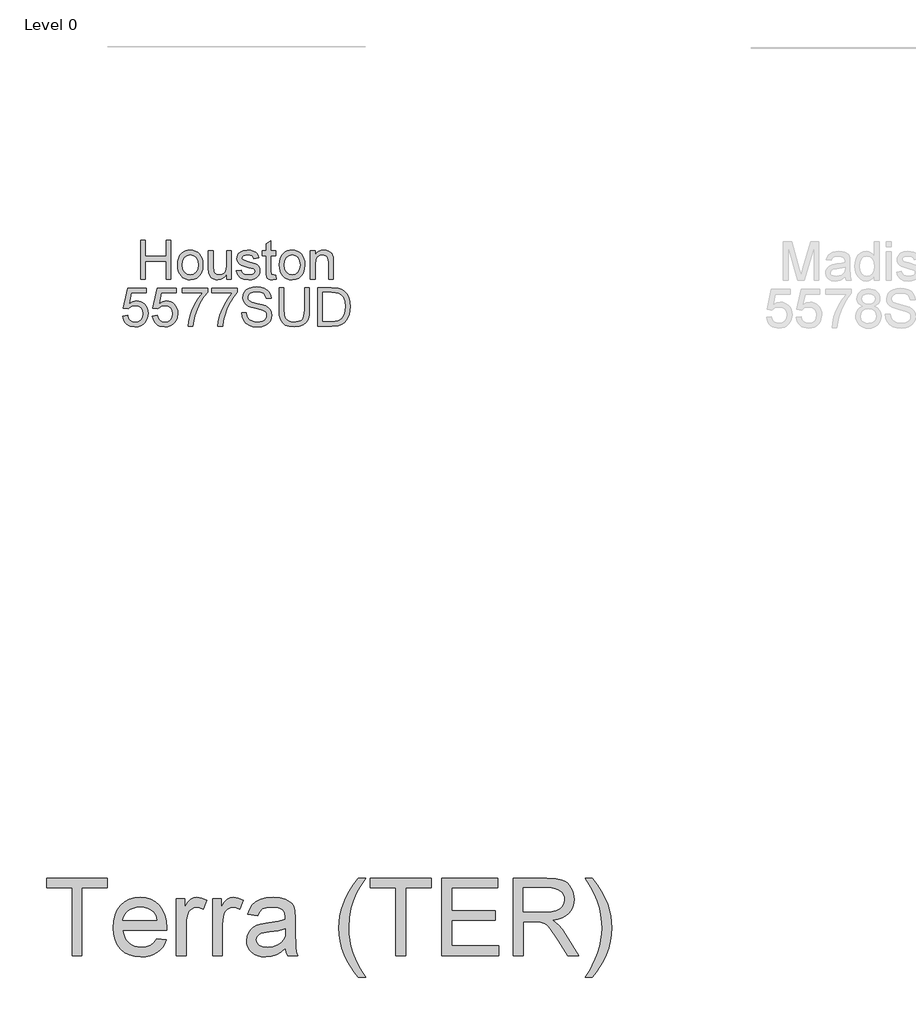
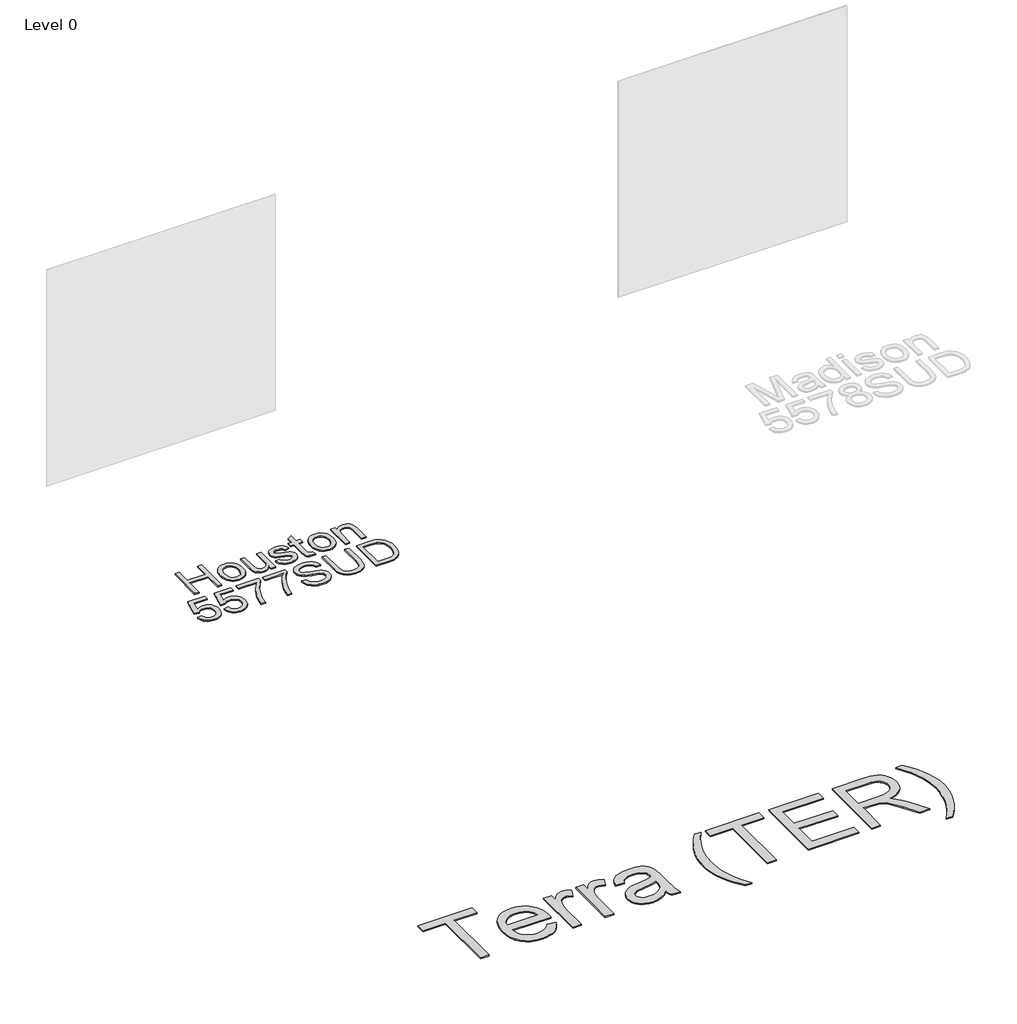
# One storey, part 2 of 9: 2 proxies.
"""IFC4 building model written with IfcOpenShell, lengths in millimetres."""

from ifc_helpers import new_model, si_unit, origin, origin_with_axes, place, context, project, spatial, polyline, outline, extrude, element, save

model = new_model("IFC4")

# Units and contexts
model_context = context("Model", 3, world=origin())
ifc_project = project(units=[si_unit("LENGTHUNIT", "METRE", prefix="MILLI")], contexts=[model_context])

# Site, building, storey
site = spatial("IfcSite", under=ifc_project)
building = spatial("IfcBuilding", under=site)
storey = spatial("IfcBuildingStorey", under=building, Name="Level 0", Elevation=0.0)

# Proxies
placement = place(None, origin())
element("IfcBuildingElementProxy", 1, Name="300mm Arial", ObjectType="300mm Arial", at=placement, inside=storey, context=model_context, shape_type="SweptSolid", body=[
    extrude(outline(polyline([(-10194.6626034, -16998.4454346), (-10194.6626034, -16697.0765041), (-10156.991487, -16697.0765041), (-10156.991487, -16819.5076321), (-9996.8892427, -16819.5076321), (-9996.8892427, -16697.0765041), (-9959.2181264, -16697.0765041), (-9959.2181264, -16998.4454346), (-9996.8892427, -16998.4454346), (-9996.8892427, -16857.1787484), (-10156.991487, -16857.1787484), (-10156.991487, -16998.4454346), (-10194.6626034, -16998.4454346)])), origin_with_axes(), (0.0, 0.0, 1.0), 10.0),
    extrude(outline(polyline([(-9907.4203415, -16887.7865304), (-9905.383195, -16859.1239245), (-9899.2717553, -16834.425247), (-9889.0860226, -16813.690498), (-9874.8259967, -16796.9196776), (-9860.4694019, -16786.200516), (-9844.6228849, -16778.5439719), (-9827.2864459, -16773.9500455), (-9808.4600848, -16772.4187367), (-9787.6770514, -16774.2834386), (-9768.8851792, -16779.8775442), (-9752.0844683, -16789.2010535), (-9737.2749187, -16802.2539665), (-9725.1876959, -16818.5948249), (-9716.5539654, -16837.7821702), (-9711.373727, -16859.8160025), (-9709.6469809, -16884.6963216), (-9712.7004015, -16922.753714), (-9721.8606632, -16951.7244212), (-9736.8610515, -16973.4202618), (-9757.4348521, -16989.6530549), (-9781.8714136, -16999.7790068), (-9808.4600848, -17003.1543241), (-9829.5466209, -17001.29652), (-9848.513237, -16995.7231078), (-9865.3599332, -16986.4340874), (-9880.0867093, -16973.4294589), (-9892.0451734, -16956.9299514), (-9900.5869335, -16937.1562942), (-9905.7119895, -16914.1084872), (-9907.4203415, -16887.7865304)]), holes=[polyline([(-9869.7492252, -16887.712954), (-9865.3898236, -16921.8064179), (-9852.3116186, -16946.0958266), (-9832.6299319, -16960.6363625), (-9808.4600848, -16965.4832078), (-9784.4006023, -16960.6087713), (-9764.7557038, -16945.985462), (-9751.6774989, -16921.3741566), (-9747.3180972, -16886.5357316), (-9751.70509, -16853.4355491), (-9764.8660684, -16829.4772342), (-9784.5385581, -16814.9366983), (-9808.4600848, -16810.089853), (-9832.6299319, -16814.9183042), (-9852.3116186, -16829.4036578), (-9865.3898236, -16853.6378842), (-9869.7492252, -16887.712954)])]), origin_with_axes(), (0.0, 0.0, 1.0), 10.0),
    extrude(outline(polyline([(-9526.0002889, -16998.4454346), (-9526.0002889, -16960.4064362), (-9539.6303168, -16979.1086372), (-9555.5044249, -16992.4673521), (-9573.6226132, -17000.4825811), (-9593.9848816, -17003.1543241), (-9612.3329961, -17001.2781259), (-9629.4119178, -16995.6495314), (-9643.7409215, -16987.1882455), (-9653.8392822, -16976.8139732), (-9665.0596831, -16949.0756708), (-9667.2669751, -16914.0533049), (-9667.2669751, -16777.1276263), (-9629.5958588, -16777.1276263), (-9629.5958588, -16896.3213927), (-9627.3149904, -16934.728273), (-9621.8243516, -16947.5397635), (-9612.4157696, -16957.2794393), (-9599.7146437, -16963.4322657), (-9584.3463734, -16965.4832078), (-9568.0951862, -16963.3862804), (-9552.8924628, -16957.0954983), (-9540.3568838, -16947.1902756), (-9532.10713, -16934.2500264), (-9527.5269992, -16916.5273113), (-9526.0002889, -16892.2746907), (-9526.0002889, -16777.1276263), (-9488.3291726, -16777.1276263), (-9488.3291726, -16998.4454346), (-9526.0002889, -16998.4454346)])), origin_with_axes(), (0.0, 0.0, 1.0), 10.0),
    extrude(outline(polyline([(-9450.6580563, -16932.520981), (-9412.98694, -16927.8120915), (-9407.0456458, -16943.9253229), (-9395.5493334, -16955.7711231), (-9378.4244266, -16963.0551866), (-9355.5973488, -16965.4832078), (-9333.0461824, -16963.2575217), (-9317.1904685, -16956.5804635), (-9307.8094776, -16946.905167), (-9304.6824806, -16935.6847662), (-9307.8278717, -16926.0830461), (-9317.2640449, -16918.7621944), (-9356.0388071, -16908.0200401), (-9412.7662108, -16889.5891522), (-9427.1228057, -16880.3277229), (-9437.5246691, -16868.0680555), (-9443.8430423, -16853.591899), (-9445.9491668, -16837.6810027), (-9444.2569096, -16823.0852845), (-9439.1801381, -16809.6116064), (-9431.1787047, -16797.7933973), (-9420.7124619, -16788.1640861), (-9396.763344, -16777.0172617), (-9364.3529402, -16772.4187367), (-9339.8336053, -16774.2673437), (-9318.5148436, -16779.8131648), (-9301.3715427, -16788.513574), (-9289.3785896, -16799.8259454), (-9281.4323385, -16814.5872104), (-9276.4291434, -16833.6343007), (-9314.1002597, -16838.3431903), (-9318.8551345, -16826.488193), (-9328.2637165, -16817.5578575), (-9342.4179763, -16811.9568541), (-9361.4098843, -16810.089853), (-9383.0413456, -16811.8740807), (-9397.4623198, -16817.2267637), (-9405.5741178, -16824.9522856), (-9408.2780505, -16833.8550299), (-9403.7898901, -16844.8179134), (-9389.7367979, -16853.1320465), (-9357.2896059, -16861.151874), (-9301.9969421, -16878.8837861), (-9287.3920268, -16887.3634661), (-9276.3187788, -16898.9701431), (-9269.3382179, -16913.7406052), (-9267.0113643, -16931.7116406), (-9269.7428881, -16950.2896814), (-9277.9374596, -16967.7640762), (-9291.2823789, -16982.7644645), (-9309.4649466, -16993.920486), (-9331.4275017, -17000.8458646), (-9356.1123835, -17003.1543241), (-9394.0961995, -16998.7029519), (-9421.8161079, -16985.3488355), (-9440.3205722, -16963.2391276), (-9450.6580563, -16932.520981)])), origin_with_axes(), (0.0, 0.0, 1.0), 10.0),
    extrude(outline(polyline([(-9144.5802363, -16967.0283122), (-9139.8713468, -16999.5490805), (-9168.0511076, -17003.1543241), (-9186.1325077, -17001.5908256), (-9199.6153828, -16996.9003302), (-9209.1435265, -16989.671449), (-9215.3607322, -16980.4927932), (-9218.7820347, -16964.7290497), (-9219.9224689, -16937.7449053), (-9219.9224689, -16814.7987426), (-9248.1758062, -16814.7987426), (-9248.1758062, -16777.1276263), (-9219.9224689, -16777.1276263), (-9219.9224689, -16723.3432786), (-9182.2513526, -16701.1967824), (-9182.2513526, -16777.1276263), (-9144.5802363, -16777.1276263), (-9144.5802363, -16814.7987426), (-9182.2513526, -16814.7987426), (-9182.2513526, -16936.6412594), (-9180.2647899, -16956.0654287), (-9173.8268549, -16962.944822), (-9160.9877733, -16965.4832078), (-9144.5802363, -16967.0283122)])), origin_with_axes(), (0.0, 0.0, 1.0), 10.0),
    extrude(outline(polyline([(-9116.3268991, -16887.7865304), (-9114.2897525, -16859.1239245), (-9108.1783129, -16834.425247), (-9097.9925802, -16813.690498), (-9083.7325543, -16796.9196776), (-9069.3759595, -16786.200516), (-9053.5294425, -16778.5439719), (-9036.1930035, -16773.9500455), (-9017.3666424, -16772.4187367), (-8996.5836089, -16774.2834386), (-8977.7917368, -16779.8775442), (-8960.9910259, -16789.2010535), (-8946.1814763, -16802.2539665), (-8934.0942535, -16818.5948249), (-8925.4605229, -16837.7821702), (-8920.2802846, -16859.8160025), (-8918.5535385, -16884.6963216), (-8921.606959, -16922.753714), (-8930.7672207, -16951.7244212), (-8945.7676091, -16973.4202618), (-8966.3414097, -16989.6530549), (-8990.7779712, -16999.7790068), (-9017.3666424, -17003.1543241), (-9038.4531785, -17001.29652), (-9057.4197946, -16995.7231078), (-9074.2664907, -16986.4340874), (-9088.9932668, -16973.4294589), (-9100.951731, -16956.9299514), (-9109.493491, -16937.1562942), (-9114.6185471, -16914.1084872), (-9116.3268991, -16887.7865304)]), holes=[polyline([(-9078.6557828, -16887.712954), (-9074.2963811, -16921.8064179), (-9061.2181762, -16946.0958266), (-9041.5364895, -16960.6363625), (-9017.3666424, -16965.4832078), (-8993.3071599, -16960.6087713), (-8973.6622614, -16945.985462), (-8960.5840564, -16921.3741566), (-8956.2246548, -16886.5357316), (-8960.6116476, -16853.4355491), (-8973.772626, -16829.4772342), (-8993.4451157, -16814.9366983), (-9017.3666424, -16810.089853), (-9041.5364895, -16814.9183042), (-9061.2181762, -16829.4036578), (-9074.2963811, -16853.6378842), (-9078.6557828, -16887.712954)])]), origin_with_axes(), (0.0, 0.0, 1.0), 10.0),
    extrude(outline(polyline([(-8876.1735326, -16998.4454346), (-8876.1735326, -16777.1276263), (-8838.5024163, -16777.1276263), (-8838.5024163, -16808.0297138), (-8825.4150144, -16792.4499114), (-8809.6972561, -16781.321481), (-8791.3491416, -16774.6444228), (-8770.3706708, -16772.4187367), (-8751.8018271, -16774.2121614), (-8734.7964819, -16779.5924356), (-8720.614631, -16787.8881746), (-8710.5162702, -16798.4279938), (-8699.222293, -16826.129508), (-8697.2357302, -16862.5498255), (-8697.2357302, -16998.4454346), (-8734.9068465, -16998.4454346), (-8734.9068465, -16867.6265971), (-8739.247854, -16834.2964883), (-8745.2535276, -16824.3728715), (-8754.5885332, -16816.6749407), (-8766.5538951, -16811.7361249), (-8780.4506375, -16810.089853), (-8802.5143602, -16813.7870671), (-8821.3223272, -16824.8787092), (-8828.8386162, -16833.9332048), (-8834.207394, -16846.3078354), (-8838.5024163, -16881.0175017), (-8838.5024163, -16998.4454346), (-8876.1735326, -16998.4454346)])), origin_with_axes(), (0.0, 0.0, 1.0), 10.0),
    extrude(outline(polyline([(-10333.5748447, -17284.3187659), (-10295.9037284, -17279.6098764), (-10288.9875469, -17302.2254221), (-10276.9210175, -17318.4214269), (-10259.7593224, -17328.1611027), (-10237.557644, -17331.4076613), (-10210.5551055, -17326.8919098), (-10190.3215958, -17313.3446554), (-10177.6848493, -17292.3293964), (-10173.4726004, -17265.4096314), (-10177.4181348, -17240.0625619), (-10189.254738, -17220.6751808), (-10209.0743805, -17208.369528), (-10236.9690328, -17204.2676438), (-10255.2435709, -17205.9047187), (-10270.0416242, -17210.8159433), (-10291.1948389, -17227.8120915), (-10328.8659552, -17223.1032019), (-10295.9037284, -17067.7098472), (-10149.9281527, -17067.7098472), (-10149.9281527, -17105.3809635), (-10265.4430992, -17105.3809635), (-10281.629907, -17188.3751416), (-10254.7193391, -17172.041181), (-10226.5211841, -17166.5965275), (-10208.1730696, -17168.2841861), (-10191.3148772, -17173.3471621), (-10175.9466068, -17181.7854554), (-10162.0682586, -17193.5990659), (-10150.5765448, -17208.0660254), (-10142.3681777, -17224.4643653), (-10137.4431575, -17242.7940857), (-10135.8014841, -17263.0551866), (-10141.7059901, -17300.7263029), (-10149.0866227, -17317.520116), (-10159.4195082, -17332.9527657), (-10175.0728871, -17348.7578959), (-10193.3382282, -17360.0472746), (-10214.2155314, -17366.8209019), (-10237.7047968, -17369.0787776), (-10274.7045285, -17363.2754392), (-10290.3831992, -17356.0212661), (-10304.1810733, -17345.8654237), (-10315.6612908, -17333.3137499), (-10324.3869919, -17318.8720823), (-10333.5748447, -17284.3187659)])), origin_with_axes(), (0.0, 0.0, 1.0), 10.0),
    extrude(outline(polyline([(-10102.8392574, -17284.3187659), (-10065.1681411, -17279.6098764), (-10058.2519595, -17302.2254221), (-10046.1854301, -17318.4214269), (-10029.023735, -17328.1611027), (-10006.8220566, -17331.4076613), (-9979.8195182, -17326.8919098), (-9959.5860084, -17313.3446554), (-9946.9492619, -17292.3293964), (-9942.7370131, -17265.4096314), (-9946.6825475, -17240.0625619), (-9958.5191506, -17220.6751808), (-9978.3387931, -17208.369528), (-10006.2334454, -17204.2676438), (-10024.5079835, -17205.9047187), (-10039.3060368, -17210.8159433), (-10060.4592515, -17227.8120915), (-10098.1303678, -17223.1032019), (-10065.1681411, -17067.7098472), (-9919.1925654, -17067.7098472), (-9919.1925654, -17105.3809635), (-10034.7075119, -17105.3809635), (-10050.8943196, -17188.3751416), (-10023.9837517, -17172.041181), (-9995.7855968, -17166.5965275), (-9977.4374823, -17168.2841861), (-9960.5792898, -17173.3471621), (-9945.2110195, -17181.7854554), (-9931.3326712, -17193.5990659), (-9919.8409574, -17208.0660254), (-9911.6325904, -17224.4643653), (-9906.7075702, -17242.7940857), (-9905.0658967, -17263.0551866), (-9910.9704028, -17300.7263029), (-9918.3510353, -17317.520116), (-9928.6839208, -17332.9527657), (-9944.3372997, -17348.7578959), (-9962.6026408, -17360.0472746), (-9983.479944, -17366.8209019), (-10006.9692094, -17369.0787776), (-10043.9689411, -17363.2754392), (-10059.6476119, -17356.0212661), (-10073.4454859, -17345.8654237), (-10084.9257035, -17333.3137499), (-10093.6514045, -17318.8720823), (-10102.8392574, -17284.3187659)])), origin_with_axes(), (0.0, 0.0, 1.0), 10.0),
    extrude(outline(polyline([(-9872.10367, -17105.3809635), (-9872.10367, -17067.7098472), (-9674.3303094, -17067.7098472), (-9674.3303094, -17098.1704764), (-9702.5192673, -17133.8458329), (-9730.4323136, -17179.2148799), (-9755.0528162, -17230.1389451), (-9773.3641425, -17282.479356), (-9782.3404632, -17321.6403943), (-9787.3436583, -17364.3698881), (-9825.0147746, -17364.3698881), (-9820.9404815, -17325.5399435), (-9810.0419774, -17279.3891472), (-9792.6135679, -17230.4700389), (-9768.9495585, -17183.3351583), (-9741.3216207, -17140.7252262), (-9712.0014257, -17105.3809635), (-9872.10367, -17105.3809635)])), origin_with_axes(), (0.0, 0.0, 1.0), 10.0),
    extrude(outline(polyline([(-9641.3680826, -17105.3809635), (-9641.3680826, -17067.7098472), (-9443.594722, -17067.7098472), (-9443.594722, -17098.1704764), (-9471.7836799, -17133.8458329), (-9499.6967263, -17179.2148799), (-9524.3172288, -17230.1389451), (-9542.6285551, -17282.479356), (-9551.6048758, -17321.6403943), (-9556.6080709, -17364.3698881), (-9594.2791872, -17364.3698881), (-9590.2048941, -17325.5399435), (-9579.30639, -17279.3891472), (-9561.8779805, -17230.4700389), (-9538.2139712, -17183.3351583), (-9510.5860333, -17140.7252262), (-9481.2658383, -17105.3809635), (-9641.3680826, -17105.3809635)])), origin_with_axes(), (0.0, 0.0, 1.0), 10.0),
    extrude(outline(polyline([(-9410.6324952, -17260.7743182), (-9372.9613789, -17260.7743182), (-9368.6387655, -17281.6792126), (-9360.8212731, -17298.4822228), (-9348.6259849, -17311.8179451), (-9331.1699843, -17322.320976), (-9309.8328286, -17329.13599), (-9285.9940753, -17331.4076613), (-9265.0064074, -17329.687813), (-9246.6307018, -17324.528268), (-9231.740678, -17316.3612877), (-9221.2100559, -17305.6191335), (-9214.9468649, -17293.2858896), (-9212.8591346, -17280.3456404), (-9214.4226331, -17267.736485), (-9219.1131285, -17256.8379809), (-9228.6412722, -17247.5397635), (-9244.7177154, -17239.7314681), (-9299.5689209, -17225.3472821), (-9335.5753712, -17215.8283355), (-9358.6139811, -17206.7692414), (-9377.3667658, -17194.0957066), (-9390.6565029, -17178.7366333), (-9398.5751628, -17161.0231153), (-9401.2147162, -17141.2862462), (-9397.9497634, -17119.2225236), (-9388.1549053, -17098.648723), (-9372.0876592, -17081.2111164), (-9350.0055424, -17068.5559758), (-9323.4996447, -17060.858045), (-9294.1610556, -17058.2920681), (-9262.3760512, -17060.9776067), (-9234.5641723, -17069.0342224), (-9211.7187004, -17082.2963683), (-9194.8329169, -17100.5984975), (-9184.1459449, -17122.800176), (-9179.8969079, -17147.7609693), (-9217.5680242, -17147.7609693), (-9224.4842057, -17125.2833794), (-9238.9051799, -17109.0597834), (-9261.4379521, -17099.2373342), (-9292.6895276, -17095.9631844), (-9324.6768671, -17099.200546), (-9346.6210281, -17108.9126306), (-9359.3129569, -17123.2048461), (-9363.5435998, -17140.1826002), (-9360.5453616, -17154.6587567), (-9351.5506468, -17166.3022219), (-9330.2870675, -17176.7132823), (-9290.0407772, -17187.345072), (-9248.5069, -17197.4434328), (-9223.3805597, -17206.2542066), (-9201.9054482, -17219.9210227), (-9186.923454, -17236.7884122), (-9178.1218772, -17256.672434), (-9175.1880183, -17279.3891472), (-9178.5633356, -17302.6116981), (-9188.6892875, -17324.4546916), (-9205.1520068, -17343.2534616), (-9227.5376262, -17357.343342), (-9254.4573912, -17366.1449187), (-9284.5225473, -17369.0787776), (-9321.4303085, -17365.9149925), (-9351.8081642, -17356.423637), (-9376.0056024, -17340.567923), (-9394.372111, -17318.3110623), (-9406.162729, -17291.1981592), (-9410.6324952, -17260.7743182)])), origin_with_axes(), (0.0, 0.0, 1.0), 10.0),
    extrude(outline(polyline([(-8920.9079833, -17063.0009576), (-8883.2368669, -17063.0009576), (-8883.2368669, -17236.8619886), (-8885.7936468, -17277.5773284), (-8893.4639864, -17308.9300714), (-8907.7929901, -17333.1183126), (-8930.3257623, -17352.3401468), (-8961.1174853, -17364.8941199), (-9000.2233414, -17369.0787776), (-9038.4738719, -17365.4367459), (-9069.0540627, -17354.5106506), (-9091.973111, -17336.6775709), (-9107.2402138, -17312.3145858), (-9115.8210613, -17279.6374675), (-9118.6813439, -17236.8619886), (-9118.6813439, -17063.0009576), (-9081.0102276, -17063.0009576), (-9081.0102276, -17235.5376134), (-9079.1524235, -17269.391954), (-9073.5790113, -17292.9639928), (-9063.4806505, -17309.2887564), (-9048.0480008, -17321.4012711), (-9027.9248556, -17328.9060638), (-9003.7550086, -17331.4076613), (-8965.4400988, -17326.4596485), (-8951.0972995, -17320.2746324), (-8939.9642706, -17311.61561), (-8931.6271449, -17299.4387159), (-8925.6720551, -17282.7000852), (-8920.9079833, -17235.5376134), (-8920.9079833, -17063.0009576)])), origin_with_axes(), (0.0, 0.0, 1.0), 10.0),
    extrude(outline(polyline([(-8817.3124134, -17364.3698881), (-8817.3124134, -17063.0009576), (-8713.3489616, -17063.0009576), (-8659.5646139, -17067.3419652), (-8635.5419196, -17075.7112806), (-8615.2716217, -17088.8998501), (-8594.4311066, -17111.8556866), (-8579.5870681, -17140.4033294), (-8570.7027179, -17173.9909556), (-8567.7412679, -17212.0667421), (-8569.7462248, -17244.4127665), (-8575.7610954, -17272.8776359), (-8584.9213571, -17297.1118623), (-8596.3624871, -17316.7659579), (-8609.5326625, -17332.2813811), (-8623.8800603, -17344.0995902), (-8640.3519767, -17352.8643787), (-8659.8957077, -17359.2195402), (-8708.3457664, -17364.3698881), (-8817.3124134, -17364.3698881)]), holes=[polyline([(-8779.6412971, -17326.6987718), (-8712.9810796, -17326.6987718), (-8685.408324, -17325.3376084), (-8664.4942326, -17321.2541183), (-8648.712095, -17314.6874246), (-8636.535201, -17305.8766509), (-8623.447799, -17289.5702814), (-8613.6161527, -17268.4630519), (-8607.4633263, -17242.4629919), (-8605.4123842, -17211.4781309), (-8609.431495, -17170.4225002), (-8621.4888274, -17140.1090238), (-8639.303513, -17119.2869029), (-8660.5946835, -17106.7053387), (-8682.262933, -17102.1803901), (-8714.0111492, -17100.6720739), (-8779.6412971, -17100.6720739), (-8779.6412971, -17326.6987718)])]), origin_with_axes(), (0.0, 0.0, 1.0), 10.0),
])
element("IfcBuildingElementProxy", 2, Name="600mm Arial", ObjectType="600mm Arial", at=placement, inside=storey, context=model_context, shape_type="SweptSolid", body=[
    extrude(outline(polyline([(-10726.77872, -22251.0419285), (-10726.77872, -21723.6463002), (-10924.5520806, -21723.6463002), (-10924.5520806, -21648.3040676), (-10453.6631268, -21648.3040676), (-10453.6631268, -21723.6463002), (-10651.4364874, -21723.6463002), (-10651.4364874, -22251.0419285), (-10726.77872, -22251.0419285)])), origin_with_axes(), (0.0, 0.0, 1.0), 10.0),
    extrude(outline(polyline([(-10068.4171014, -22119.1930214), (-9994.5463968, -22128.6108005), (-10005.8725637, -22158.1977099), (-10021.1626592, -22184.2713463), (-10040.4166831, -22206.8317097), (-10063.6346355, -22225.8788), (-10090.5773931, -22241.007947), (-10121.0058327, -22251.8144807), (-10154.9199541, -22258.2984008), (-10192.3197574, -22260.4597075), (-10239.068362, -22256.7303038), (-10280.7218009, -22245.5420926), (-10317.2800741, -22226.895074), (-10348.7431818, -22200.7892479), (-10374.044266, -22167.9511813), (-10392.116469, -22129.1074412), (-10402.9597908, -22084.2580274), (-10406.5742314, -22033.4029401), (-10402.9230026, -21980.823406), (-10391.9693162, -21934.4794716), (-10373.7131722, -21894.3711371), (-10348.1545706, -21860.4984024), (-10316.7742364, -21833.5878344), (-10281.0528947, -21814.3660002), (-10240.9905454, -21802.8328996), (-10196.5871886, -21798.9885328), (-10153.613973, -21802.8237026), (-10114.7518387, -21814.329212), (-10080.0007858, -21833.505061), (-10049.3608141, -21860.3512496), (-10024.349437, -21894.1504079), (-10006.4841676, -21934.185166), (-9995.7650059, -21980.455524), (-9992.191952, -22032.9614817), (-9992.6334104, -22053.2685679), (-10331.2319988, -22053.2685679), (-10326.8679986, -22083.3337239), (-10318.1905821, -22109.6648777), (-10305.1997491, -22132.2620293), (-10287.8954998, -22151.1251786), (-10267.2343272, -22165.9968082), (-10244.1727246, -22176.6194008), (-10218.7106921, -22182.9929564), (-10190.8482294, -22185.1174749), (-10150.749092, -22181.1811376), (-10116.9775248, -22169.3721255), (-10089.533528, -22148.9546748), (-10068.4171014, -22119.1930214)]), holes=[polyline([(-10331.2319988, -21977.9263352), (-10067.5341847, -21977.9263352), (-10077.7245159, -21938.1215034), (-10086.4893045, -21922.4681245), (-10097.7005083, -21909.6474369), (-10118.2467177, -21894.1963931), (-10141.6256185, -21883.1599333), (-10167.8372106, -21876.5380574), (-10196.8814942, -21874.3307654), (-10223.3735963, -21876.0920005), (-10247.6676036, -21881.3757056), (-10269.7635159, -21890.1818809), (-10289.6613333, -21902.5105262), (-10306.3585774, -21917.7914246), (-10318.8527697, -21935.4543589), (-10327.1439101, -21955.4993291), (-10331.2319988, -21977.9263352)])]), origin_with_axes(), (0.0, 0.0, 1.0), 10.0),
    extrude(outline(polyline([(-9916.8497194, -22251.0419285), (-9916.8497194, -21808.4063119), (-9850.9252659, -21808.4063119), (-9850.9252659, -21873.889307), (-9826.5714778, -21835.9238851), (-9804.1306761, -21813.5566598), (-9781.616298, -21802.6305645), (-9757.0417807, -21798.9885328), (-9719.5178172, -21804.8010683), (-9681.4052425, -21822.2386749), (-9706.568371, -21889.7818092), (-9733.0558746, -21878.1935264), (-9759.5433783, -21874.3307654), (-9782.0393623, -21878.0463736), (-9802.1441133, -21889.193198), (-9818.3861034, -21906.9251102), (-9829.2938046, -21930.3959815), (-9838.4540663, -21972.4816817), (-9841.5074868, -22018.3933547), (-9841.5074868, -22251.0419285), (-9916.8497194, -22251.0419285)])), origin_with_axes(), (0.0, 0.0, 1.0), 10.0),
    extrude(outline(polyline([(-9634.3163471, -22251.0419285), (-9634.3163471, -21808.4063119), (-9568.3918936, -21808.4063119), (-9568.3918936, -21873.889307), (-9544.0381055, -21835.9238851), (-9521.5973038, -21813.5566598), (-9499.0829257, -21802.6305645), (-9474.5084084, -21798.9885328), (-9436.9844449, -21804.8010683), (-9398.8718702, -21822.2386749), (-9424.0349987, -21889.7818092), (-9450.5225023, -21878.1935264), (-9477.010006, -21874.3307654), (-9499.50599, -21878.0463736), (-9519.610741, -21889.193198), (-9535.8527311, -21906.9251102), (-9546.7604323, -21930.3959815), (-9555.920694, -21972.4816817), (-9558.9741145, -22018.3933547), (-9558.9741145, -22251.0419285), (-9634.3163471, -22251.0419285)])), origin_with_axes(), (0.0, 0.0, 1.0), 10.0),
    extrude(outline(polyline([(-9069.2496025, -22194.535254), (-9105.2468558, -22225.4005534), (-9142.3109668, -22245.5972749), (-9181.2880642, -22256.7440994), (-9223.0242765, -22260.4597075), (-9256.570516, -22258.2248244), (-9285.98728, -22251.5201751), (-9311.2745686, -22240.3457595), (-9332.4323819, -22224.7015776), (-9349.138823, -22205.5809109), (-9361.0719952, -22183.9770407), (-9368.2318986, -22159.8899671), (-9370.618533, -22133.31969), (-9367.0132894, -22102.0865086), (-9356.1975588, -22073.7228068), (-9339.5141103, -22049.4425951), (-9318.3057133, -22030.4598842), (-9293.3817081, -22016.1124863), (-9265.5514352, -22005.7382141), (-9200.3627456, -21994.4074486), (-9123.3282558, -21982.488072), (-9069.6910609, -21968.5085562), (-9069.2496025, -21951.7331372), (-9074.4367387, -21918.1087228), (-9080.9206588, -21905.6559173), (-9089.9981471, -21896.1093795), (-9105.6883142, -21886.5812358), (-9124.7997838, -21879.7754189), (-9173.2866308, -21874.3307654), (-9218.1682342, -21877.9544031), (-9249.5117802, -21888.825316), (-9270.8857241, -21908.9300671), (-9285.8585213, -21940.2552189), (-9361.2007539, -21930.8374399), (-9348.122549, -21889.6346564), (-9328.6064091, -21857.2610408), (-9300.8313185, -21832.5025826), (-9262.9762612, -21814.145271), (-9216.6783121, -21802.7777173), (-9163.5745461, -21798.9885328), (-9112.6412839, -21802.336259), (-9072.2662349, -21812.3794374), (-9041.8239998, -21827.4809933), (-9020.6891792, -21846.0038518), (-9006.6728752, -21868.904506), (-8997.5861899, -21897.1394491), (-8993.9073699, -21963.0639026), (-8993.9073699, -22056.800235), (-8990.0813972, -22187.6926489), (-8984.4160145, -22220.0478704), (-8975.0718118, -22251.0419285), (-9050.4140444, -22251.0419285), (-9062.4805738, -22224.8487304), (-9069.2496025, -22194.535254)]), holes=[polyline([(-9069.2496025, -22043.8507888), (-9119.8701651, -22056.3955648), (-9190.7978138, -22066.9537781), (-9255.6186213, -22079.1674603), (-9272.4860108, -22087.5183816), (-9284.9756045, -22099.0330881), (-9292.7011264, -22112.8286629), (-9295.2763004, -22128.0221893), (-9289.6661, -22150.4262028), (-9272.8354987, -22168.7835143), (-9245.1523785, -22181.0339848), (-9206.9846215, -22185.1174749), (-9166.5176021, -22180.6109205), (-9130.7594721, -22167.0912572), (-9101.7703709, -22147.1704471), (-9081.6104376, -22123.4604525), (-9072.6709051, -22099.0330881), (-9069.6910609, -22065.1879445), (-9069.2496025, -22043.8507888)])]), origin_with_axes(), (0.0, 0.0, 1.0), 10.0),
    extrude(outline(polyline([(-8504.182858, -22420.5619518), (-8534.5975019, -22381.2077754), (-8562.5657306, -22338.6346315), (-8588.087544, -22292.8425202), (-8611.1629422, -22243.8314414), (-8630.2836089, -22192.7510263), (-8643.9412279, -22140.7509063), (-8652.1357994, -22087.8310813), (-8654.8673232, -22033.9915513), (-8652.8255781, -21986.6727297), (-8646.7003429, -21940.3655835), (-8636.4916175, -21895.0701129), (-8622.199402, -21850.7863177), (-8600.4759702, -21800.0002083), (-8573.5654022, -21749.3244634), (-8541.4676982, -21698.7590832), (-8504.182858, -21648.3040676), (-8447.6761835, -21648.3040676), (-8492.0059639, -21719.930692), (-8518.1623738, -21767.6449868), (-8542.2218563, -21824.2988141), (-8560.5423796, -21883.3070861), (-8574.7794128, -21958.6861069), (-8579.5250906, -22034.4330097), (-8577.4649514, -22082.7313171), (-8571.2845339, -22131.0204275), (-8560.983838, -22179.3003409), (-8546.5628638, -22227.5710572), (-8528.0216112, -22275.8325764), (-8505.3600803, -22324.0848986), (-8478.5782711, -22372.3280238), (-8447.6761835, -22420.5619518), (-8504.182858, -22420.5619518)])), origin_with_axes(), (0.0, 0.0, 1.0), 10.0),
    extrude(outline(polyline([(-8212.2317066, -22251.0419285), (-8212.2317066, -21723.6463002), (-8410.0050672, -21723.6463002), (-8410.0050672, -21648.3040676), (-7939.1161134, -21648.3040676), (-7939.1161134, -21723.6463002), (-8136.889474, -21723.6463002), (-8136.889474, -22251.0419285), (-8212.2317066, -22251.0419285)])), origin_with_axes(), (0.0, 0.0, 1.0), 10.0),
    extrude(outline(polyline([(-7854.3561017, -22251.0419285), (-7854.3561017, -21648.3040676), (-7421.1382642, -21648.3040676), (-7421.1382642, -21723.6463002), (-7779.0138691, -21723.6463002), (-7779.0138691, -21902.5841026), (-7439.9738223, -21902.5841026), (-7439.9738223, -21977.9263352), (-7779.0138691, -21977.9263352), (-7779.0138691, -22175.6996959), (-7411.7204851, -22175.6996959), (-7411.7204851, -22251.0419285), (-7854.3561017, -22251.0419285)])), origin_with_axes(), (0.0, 0.0, 1.0), 10.0),
    extrude(outline(polyline([(-7298.7071362, -22251.0419285), (-7298.7071362, -21648.3040676), (-7038.9824476, -21648.3040676), (-6969.176839, -21652.3691636), (-6918.3907295, -21664.5644518), (-6898.7918163, -21674.2581423), (-6881.2714362, -21687.0788299), (-6865.8295895, -21703.0265144), (-6852.466276, -21722.1011958), (-6841.682735, -21743.2774032), (-6833.9802058, -21765.5296653), (-6829.3586882, -21788.8579824), (-6827.8181823, -21813.2623542), (-6830.3703637, -21844.2196241), (-6838.0269077, -21872.6385082), (-6850.7878144, -21898.5190066), (-6868.6530838, -21921.8611192), (-6891.8526421, -21941.919885), (-6920.6164156, -21957.9503429), (-6954.9444043, -21969.952493), (-6994.8366081, -21977.9263352), (-6970.0045735, -21994.1499312), (-6952.0151439, -22010.152798), (-6921.1498445, -22046.7570565), (-6890.9467327, -22087.7023226), (-6790.4413716, -22251.0419285), (-6877.9972865, -22251.0419285), (-6956.4297278, -22126.1092029), (-7013.0835551, -22043.4093304), (-7034.1447993, -22019.2946656), (-7052.888387, -22004.3402625), (-7088.7200933, -21989.9928647), (-7132.4244743, -21987.3441143), (-7223.3649035, -21987.3441143), (-7223.3649035, -22251.0419285), (-7298.7071362, -22251.0419285)]), holes=[polyline([(-7223.3649035, -21912.0018817), (-7054.727797, -21912.0018817), (-7006.2961323, -21909.3347372), (-6968.7169865, -21901.3333039), (-6940.4268611, -21887.4641526), (-6919.8622575, -21867.1938547), (-6907.3358756, -21842.6745197), (-6903.1604149, -21816.0582574), (-6905.1515762, -21796.7904379), (-6911.1250601, -21779.3068461), (-6921.0808666, -21763.6074819), (-6935.0189957, -21749.6923454), (-6953.2613442, -21738.2972006), (-6976.1298087, -21730.1578115), (-7003.6243893, -21725.274178), (-7035.745086, -21723.6463002), (-7223.3649035, -21723.6463002), (-7223.3649035, -21912.0018817)])]), origin_with_axes(), (0.0, 0.0, 1.0), 10.0),
    extrude(outline(polyline([(-6686.5514962, -22420.5619518), (-6743.0581706, -22420.5619518), (-6712.1560831, -22372.3280238), (-6685.3742738, -22324.0848986), (-6662.7127429, -22275.8325764), (-6644.1714903, -22227.5710572), (-6629.7505161, -22179.3003409), (-6619.4498203, -22131.0204275), (-6613.2694027, -22082.7313171), (-6611.2092636, -22034.4330097), (-6615.9549413, -21959.2379299), (-6630.1919745, -21884.6314613), (-6648.1814041, -21825.5128246), (-6672.130522, -21768.8222092), (-6698.3972964, -21720.5928796), (-6743.0581706, -21648.3040676), (-6686.5514962, -21648.3040676), (-6649.266656, -21698.7590832), (-6617.1689519, -21749.3244634), (-6590.2583839, -21800.0002083), (-6568.5349521, -21850.7863177), (-6554.2427366, -21895.0701129), (-6544.0340113, -21940.3655835), (-6537.908776, -21986.6727297), (-6535.867031, -22033.9915513), (-6538.6123504, -22087.8310813), (-6546.8483085, -22140.7509063), (-6560.5749055, -22192.7510263), (-6579.7921412, -22243.8314414), (-6602.9365172, -22292.8425202), (-6628.444535, -22338.6346315), (-6656.3161947, -22381.2077754), (-6686.5514962, -22420.5619518)])), origin_with_axes(), (0.0, 0.0, 1.0), 10.0),
])

save(model, "model.ifc")
